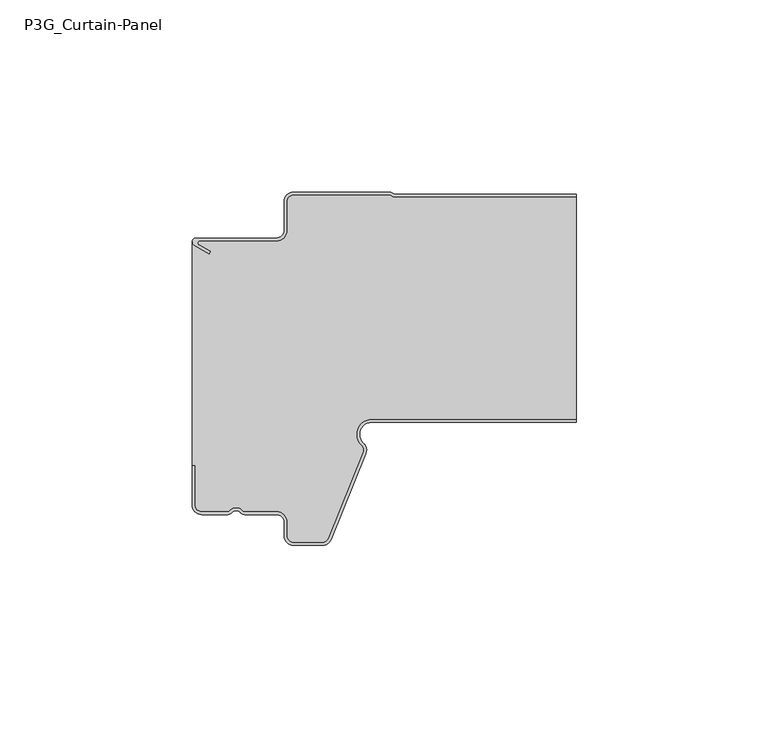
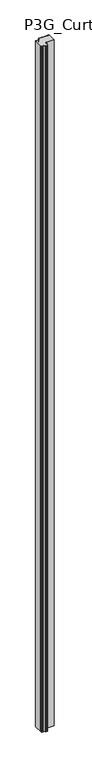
"""IFC4 building model written with IfcOpenShell, lengths in millimetres: plate geometry, P3G_Curtain-Panel : ACH_P3G_3-Rib-Roof-Panel_60M."""

from ifc_helpers import new_model, si_unit, point, frame_2d, origin, origin_with_axes, place, context, project, spatial, polyline, circle_curve, trimmed, segment, composite_curve, outline, extrude, source, transform, mapped, element, save


def p3g_curtain_panel_511affbb(model_context):
    return source(origin(), model_context, "Body", "SweptSolid", [
        extrude(outline(composite_curve([segment(polyline([(-49.496875, -13.8660254), (-45.496875, -16.1754265), (-45.096875, -15.4826062), (-48.1272598, -13.7330127)]), True, "CONTINUOUS"), segment(trimmed(circle_curve(frame_2d((-47.8772598, -13.3)), 0.5), [point((-48.1272598, -13.7330127))], [point((-47.8772598, -12.8))], False, "CARTESIAN"), True, "CONTINUOUS"), segment(polyline([(-47.8772598, -12.8), (-27.996875, -12.8)]), True, "CONTINUOUS"), segment(trimmed(circle_curve(frame_2d((-27.996875, -10.0)), 2.8), [point((-27.996875, -12.8))], [point((-25.196875, -10.0))], True, "CARTESIAN"), True, "CONTINUOUS"), segment(polyline([(-25.196875, -10.0), (-25.196875, -2.5)]), True, "CONTINUOUS"), segment(trimmed(circle_curve(frame_2d((-23.496875, -2.5)), 1.7), [point((-25.196875, -2.5))], [point((-23.496875, -0.8))], False, "CARTESIAN"), True, "CONTINUOUS"), segment(polyline([(-23.496875, -0.8), (1.5686408, -0.8), (2.5661408, -1.4), (50.0, -1.4), (50.0, -59.2), (-3.2387629, -59.2)]), True, "CONTINUOUS"), segment(trimmed(circle_curve(frame_2d((-3.2387629, -63.1)), 3.9), [point((-3.2387629, -59.2))], [point((-5.8938106, -65.9566976))], True, "CARTESIAN"), True, "CONTINUOUS"), segment(trimmed(circle_curve(frame_2d((-7.0511391, -67.2019248)), 1.7), [point((-5.8938106, -65.9566976))], [point((-5.4749266, -67.838756))], False, "CARTESIAN"), True, "CONTINUOUS"), segment(polyline([(-5.4749266, -67.838756), (-14.4839337, -90.1368312)]), True, "CONTINUOUS"), segment(trimmed(circle_curve(frame_2d((-16.0601463, -89.5)), 1.7), [point((-14.4839337, -90.1368312))], [point((-16.0601463, -91.2))], False, "CARTESIAN"), True, "CONTINUOUS"), segment(polyline([(-16.0601463, -91.2), (-23.496875, -91.2)]), True, "CONTINUOUS"), segment(trimmed(circle_curve(frame_2d((-23.496875, -89.5)), 1.7), [point((-23.496875, -91.2))], [point((-25.196875, -89.5))], False, "CARTESIAN"), True, "CONTINUOUS"), segment(polyline([(-25.196875, -89.5), (-25.196875, -86.0)]), True, "CONTINUOUS"), segment(trimmed(circle_curve(frame_2d((-27.996875, -86.0)), 2.8), [point((-25.196875, -86.0))], [point((-27.996875, -83.2))], True, "CARTESIAN"), True, "CONTINUOUS"), segment(polyline([(-27.996875, -83.2), (-36.5995084, -83.2)]), True, "CONTINUOUS"), segment(trimmed(circle_curve(frame_2d((-38.496875, -84.5)), 2.3), [point((-36.5995084, -83.2))], [point((-40.3942416, -83.2))], True, "CARTESIAN"), True, "CONTINUOUS"), segment(polyline([(-40.3942416, -83.2), (-47.496875, -83.2)]), True, "CONTINUOUS"), segment(trimmed(circle_curve(frame_2d((-47.496875, -81.5)), 1.7), [point((-47.496875, -83.2))], [point((-49.196875, -81.5))], False, "CARTESIAN"), True, "CONTINUOUS"), segment(polyline([(-49.196875, -81.5), (-49.196875, -71.18), (-49.996875, -71.18), (-49.996875, -13.0)]), True, "CONTINUOUS"), segment(trimmed(circle_curve(frame_2d((-48.996875, -13.0)), 1.0), [point((-49.996875, -13.0))], [point((-49.496875, -13.8660254))], True, "CARTESIAN"), True, "CONTINUOUS")], self_intersect=False)), origin_with_axes(), (0.0, 0.0, 1.0), 5000.0),
        extrude(outline(composite_curve([segment(trimmed(circle_curve(frame_2d((-28.0, -10.0)), 2.0), [point((-28.0, -12.0))], [point((-26.0, -10.0))], True, "CARTESIAN"), True, "CONTINUOUS"), segment(polyline([(-26.0, -10.0), (-26.0, -2.5)]), True, "CONTINUOUS"), segment(trimmed(circle_curve(frame_2d((-23.5, -2.5)), 2.5), [point((-26.0, -2.5))], [point((-23.5, 0.0))], False, "CARTESIAN"), True, "CONTINUOUS"), segment(polyline([(-23.5, 0.0), (1.7875789, 0.0), (2.7850789, -0.6), (50.0, -0.6), (50.0, -1.4), (2.5630158, -1.4), (1.5655158, -0.8), (-23.5, -0.8)]), True, "CONTINUOUS"), segment(trimmed(circle_curve(frame_2d((-23.5, -2.5)), 1.7), [point((-23.5, -0.8))], [point((-25.2, -2.5))], True, "CARTESIAN"), True, "CONTINUOUS"), segment(polyline([(-25.2, -2.5), (-25.2, -10.0)]), True, "CONTINUOUS"), segment(trimmed(circle_curve(frame_2d((-28.0, -10.0)), 2.8), [point((-25.2, -10.0))], [point((-28.0, -12.8))], False, "CARTESIAN"), True, "CONTINUOUS"), segment(polyline([(-28.0, -12.8), (-47.8803848, -12.8)]), True, "CONTINUOUS"), segment(trimmed(circle_curve(frame_2d((-47.8803848, -13.3)), 0.5), [point((-47.8803848, -12.8))], [point((-48.1303848, -13.7330127))], True, "CARTESIAN"), True, "CONTINUOUS"), segment(polyline([(-48.1303848, -13.7330127), (-45.1, -15.4826062), (-45.5, -16.1754265), (-49.5, -13.8660254)]), True, "CONTINUOUS"), segment(trimmed(circle_curve(frame_2d((-49.0, -13.0)), 1.0), [point((-49.5, -13.8660254))], [point((-49.0, -12.0))], False, "CARTESIAN"), True, "CONTINUOUS"), segment(polyline([(-49.0, -12.0), (-28.0, -12.0)]), True, "CONTINUOUS")], self_intersect=False)), origin_with_axes(), (0.0, 0.0, 1.0), 5000.0),
        extrude(outline(composite_curve([segment(polyline([(-50.0, -81.5), (-50.0, -71.18), (-49.2, -71.18), (-49.2, -81.5)]), True, "CONTINUOUS"), segment(trimmed(circle_curve(frame_2d((-47.5, -81.5)), 1.7), [point((-49.2, -81.5))], [point((-47.5, -83.2))], True, "CARTESIAN"), True, "CONTINUOUS"), segment(polyline([(-47.5, -83.2), (-40.3973666, -83.2)]), True, "CONTINUOUS"), segment(trimmed(circle_curve(frame_2d((-38.5, -84.5)), 2.3), [point((-40.3973666, -83.2))], [point((-36.6026334, -83.2))], False, "CARTESIAN"), True, "CONTINUOUS"), segment(polyline([(-36.6026334, -83.2), (-28.0, -83.2)]), True, "CONTINUOUS"), segment(trimmed(circle_curve(frame_2d((-28.0, -86.0)), 2.8), [point((-28.0, -83.2))], [point((-25.2, -86.0))], False, "CARTESIAN"), True, "CONTINUOUS"), segment(polyline([(-25.2, -86.0), (-25.2, -89.5)]), True, "CONTINUOUS"), segment(trimmed(circle_curve(frame_2d((-23.5, -89.5)), 1.7), [point((-25.2, -89.5))], [point((-23.5, -91.2))], True, "CARTESIAN"), True, "CONTINUOUS"), segment(polyline([(-23.5, -91.2), (-16.0632713, -91.2)]), True, "CONTINUOUS"), segment(trimmed(circle_curve(frame_2d((-16.0632713, -89.5)), 1.7), [point((-16.0632713, -91.2))], [point((-14.4870587, -90.1368312))], True, "CARTESIAN"), True, "CONTINUOUS"), segment(polyline([(-14.4870587, -90.1368312), (-5.4780516, -67.838756)]), True, "CONTINUOUS"), segment(trimmed(circle_curve(frame_2d((-7.0542641, -67.2019248)), 1.7), [point((-5.4780516, -67.838756))], [point((-5.8969356, -65.9566976))], True, "CARTESIAN"), True, "CONTINUOUS"), segment(trimmed(circle_curve(frame_2d((-3.2418879, -63.1)), 3.9), [point((-5.8969356, -65.9566976))], [point((-3.2418879, -59.2))], False, "CARTESIAN"), True, "CONTINUOUS"), segment(polyline([(-3.2418879, -59.2), (50.0, -59.2), (50.0, -60.0), (-3.2418879, -60.0)]), True, "CONTINUOUS"), segment(trimmed(circle_curve(frame_2d((-3.2418879, -63.1)), 3.1), [point((-3.2418879, -60.0))], [point((-5.3523104, -65.3707084))], True, "CARTESIAN"), True, "CONTINUOUS"), segment(trimmed(circle_curve(frame_2d((-7.0542641, -67.2019248)), 2.5), [point((-5.3523104, -65.3707084))], [point((-4.7363045, -68.1384413))], False, "CARTESIAN"), True, "CONTINUOUS"), segment(polyline([(-4.7363045, -68.1384413), (-13.7453117, -90.4365165)]), True, "CONTINUOUS"), segment(trimmed(circle_curve(frame_2d((-16.0632713, -89.5)), 2.5), [point((-13.7453117, -90.4365165))], [point((-16.0632713, -92.0))], False, "CARTESIAN"), True, "CONTINUOUS"), segment(polyline([(-16.0632713, -92.0), (-23.5, -92.0)]), True, "CONTINUOUS"), segment(trimmed(circle_curve(frame_2d((-23.5, -89.5)), 2.5), [point((-23.5, -92.0))], [point((-26.0, -89.5))], False, "CARTESIAN"), True, "CONTINUOUS"), segment(polyline([(-26.0, -89.5), (-26.0, -86.0)]), True, "CONTINUOUS"), segment(trimmed(circle_curve(frame_2d((-28.0, -86.0)), 2.0), [point((-26.0, -86.0))], [point((-28.0, -84.0))], True, "CARTESIAN"), True, "CONTINUOUS"), segment(polyline([(-28.0, -84.0), (-36.263932, -84.0)]), True, "CONTINUOUS"), segment(trimmed(circle_curve(frame_2d((-36.263932, -82.5)), 1.5), [point((-36.263932, -84.0))], [point((-37.381966, -83.5))], False, "CARTESIAN"), True, "CONTINUOUS"), segment(trimmed(circle_curve(frame_2d((-38.5, -84.5)), 1.5), [point((-37.381966, -83.5))], [point((-39.618034, -83.5))], True, "CARTESIAN"), True, "CONTINUOUS"), segment(trimmed(circle_curve(frame_2d((-40.736068, -82.5)), 1.5), [point((-39.618034, -83.5))], [point((-40.736068, -84.0))], False, "CARTESIAN"), True, "CONTINUOUS"), segment(polyline([(-40.736068, -84.0), (-47.5, -84.0)]), True, "CONTINUOUS"), segment(trimmed(circle_curve(frame_2d((-47.5, -81.5)), 2.5), [point((-47.5, -84.0))], [point((-50.0, -81.5))], False, "CARTESIAN"), True, "CONTINUOUS")], self_intersect=False)), origin_with_axes(), (0.0, 0.0, 1.0), 5000.0),
    ])


if __name__ == "__main__":
    model = new_model("IFC4")
    model_context = context("Model", 3, world=origin())
    ifc_project = project(units=[si_unit("LENGTHUNIT", "METRE", prefix="MILLI")], contexts=[model_context])
    site = spatial("IfcSite", under=ifc_project)
    building = spatial("IfcBuilding", under=site)
    placement = place(None, origin())
    p3g_curtain_panel_shape = p3g_curtain_panel_511affbb(model_context)
    element("IfcPlate", 1, ObjectType="P3G_Curtain-Panel : ACH_P3G_3-Rib-Roof-Panel_60M", at=placement, inside=building, context=model_context, shape_type="MappedRepresentation", body=[
        mapped(p3g_curtain_panel_shape, transform((0.0, 0.0, 0.0), x_axis=(1.0, 0.0, 0.0), y_axis=(0.0, 1.0, 0.0), z_axis=(0.0, 0.0, 1.0))),
    ])
    save(model, "model.ifc")
